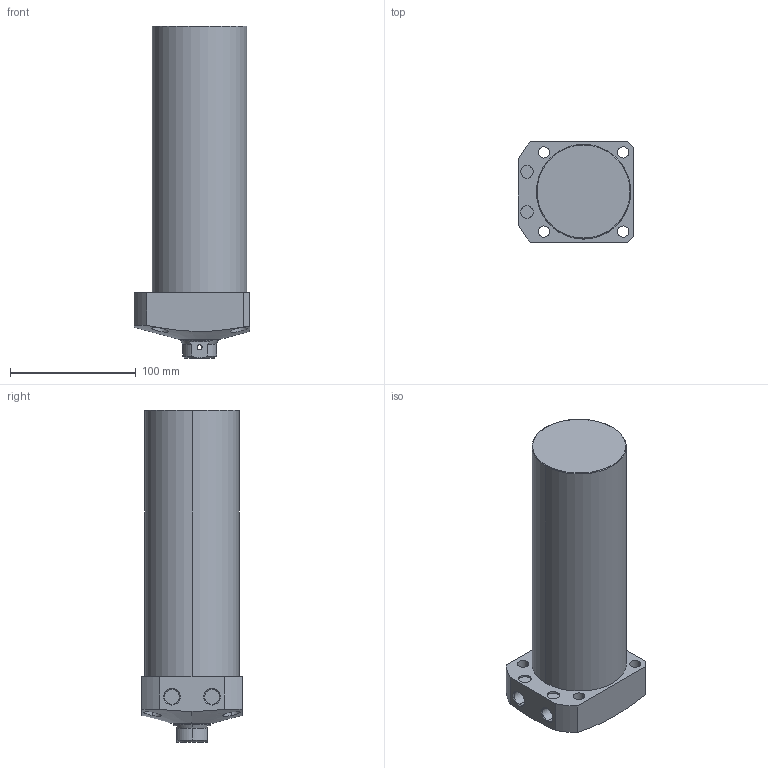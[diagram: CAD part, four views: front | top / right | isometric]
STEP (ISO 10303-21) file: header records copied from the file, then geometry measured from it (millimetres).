
FILE_DESCRIPTION (( 'STEP AP203' ), '1' );
FILE_NAME ('CLL-075CB-175.STEP', '2019-12-24T00:29:03', ( '' ), ( '' ), 'SwSTEP 2.0', 'SolidWorks 2015', '' );
FILE_SCHEMA (( 'CONFIG_CONTROL_DESIGN' ));
Length unit declared in the file: millimetre
Products named in the file (1): CLL-075CB-175
Bounding box: 92 x 80 x 264 mm (x, y, z)
Volume: 1155517.8 mm3; surface area: 82364.4 mm2
Topology: 1 solids, 1 shells, 78 faces, 183 edges, 116 vertices
Faces by surface type: cylinder 39, plane 22, cone 15, torus 2
Entity records: 2862 total; most frequent: CARTESIAN_POINT 955, DIRECTION 396, ORIENTED_EDGE 362, EDGE_CURVE 181, AXIS2_PLACEMENT_3D 164, VERTEX_POINT 116, EDGE_LOOP 101, CIRCLE 85
